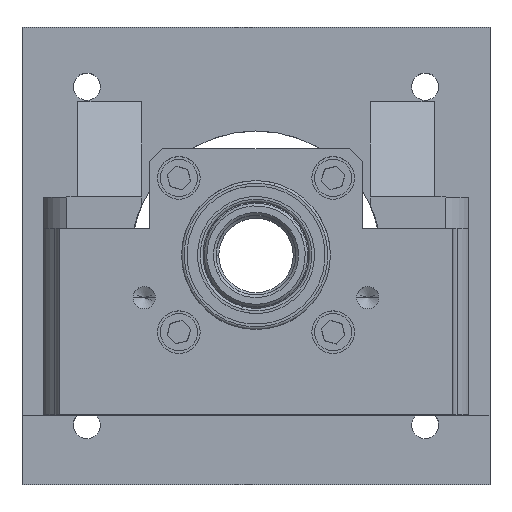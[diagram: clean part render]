
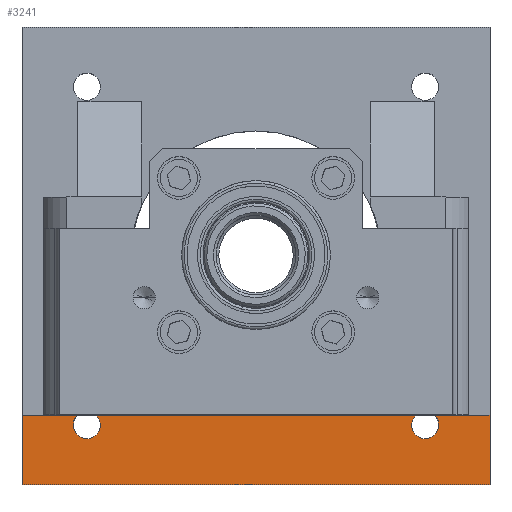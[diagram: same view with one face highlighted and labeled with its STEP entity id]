
A CAD part, top view. The second image highlights one B-rep face of the part: STEP entity #3241.
In plain terms, the highlighted planar face has unit normal (0, 0, 1).
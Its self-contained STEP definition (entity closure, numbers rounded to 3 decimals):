
#8 = VERTEX_POINT ( 'NONE', #5654 ) ;
#163 = CARTESIAN_POINT ( 'NONE',  ( 44., -30., -93. ) ) ;
#173 = LINE ( 'NONE', #13526, #3583 ) ;
#333 = VECTOR ( 'NONE', #13735, 1000. ) ;
#667 = CARTESIAN_POINT ( 'NONE',  ( -31.82, -31.82, -93. ) ) ;
#698 = DIRECTION ( 'NONE',  ( -1., 0., 0. ) ) ;
#872 = CARTESIAN_POINT ( 'NONE',  ( -29.27, -31.82, -93. ) ) ;
#908 = DIRECTION ( 'NONE',  ( 0., 0., 1. ) ) ;
#921 = DIRECTION ( 'NONE',  ( 0., -1., 0. ) ) ;
#937 = CIRCLE ( 'NONE', #13754, 2.55 ) ;
#1254 = ORIENTED_EDGE ( 'NONE', *, *, #3999, .T. ) ;
#1333 = DIRECTION ( 'NONE',  ( -1., 0., 0. ) ) ;
#1386 = CARTESIAN_POINT ( 'NONE',  ( 44., -43., -93. ) ) ;
#1397 = AXIS2_PLACEMENT_3D ( 'NONE', #667, #8696, #1832 ) ;
#1619 = VECTOR ( 'NONE', #12765, 1000. ) ;
#1832 = DIRECTION ( 'NONE',  ( -1., 0., 0. ) ) ;
#1854 = CARTESIAN_POINT ( 'NONE',  ( -30.034, -30., -93. ) ) ;
#1862 = EDGE_CURVE ( 'NONE', #8207, #4522, #14547, .T. ) ;
#1899 = DIRECTION ( 'NONE',  ( 0., 0., 1. ) ) ;
#3241 = ADVANCED_FACE ( 'NONE', ( #7307 ), #5928, .F. ) ;
#3261 = LINE ( 'NONE', #163, #6676 ) ;
#3295 = VERTEX_POINT ( 'NONE', #7192 ) ;
#3517 = VECTOR ( 'NONE', #13366, 1000. ) ;
#3583 = VECTOR ( 'NONE', #921, 1000. ) ;
#3665 = CARTESIAN_POINT ( 'NONE',  ( 31.82, -31.82, -93. ) ) ;
#3817 = CARTESIAN_POINT ( 'NONE',  ( -44., -30., -93. ) ) ;
#3999 = EDGE_CURVE ( 'NONE', #13830, #6036, #9998, .T. ) ;
#4522 = VERTEX_POINT ( 'NONE', #1854 ) ;
#4639 = CIRCLE ( 'NONE', #5540, 2.55 ) ;
#4665 = ORIENTED_EDGE ( 'NONE', *, *, #9654, .F. ) ;
#4672 = VECTOR ( 'NONE', #9417, 1000. ) ;
#4683 = CIRCLE ( 'NONE', #13283, 2.55 ) ;
#4814 = DIRECTION ( 'NONE',  ( -1., 0., 0. ) ) ;
#4817 = DIRECTION ( 'NONE',  ( 0., 0., -1. ) ) ;
#4842 = ORIENTED_EDGE ( 'NONE', *, *, #10852, .F. ) ;
#4985 = CARTESIAN_POINT ( 'NONE',  ( 30.034, -30., -93. ) ) ;
#5242 = EDGE_LOOP ( 'NONE', ( #12451, #6048, #4665, #7244, #1254, #12624, #14892, #4842, #7434, #13948, #13485, #7100 ) ) ;
#5540 = AXIS2_PLACEMENT_3D ( 'NONE', #6313, #14373, #7471 ) ;
#5654 = CARTESIAN_POINT ( 'NONE',  ( -44., -43., -93. ) ) ;
#5688 = EDGE_CURVE ( 'NONE', #6210, #7361, #6704, .T. ) ;
#5825 = AXIS2_PLACEMENT_3D ( 'NONE', #7780, #908, #8928 ) ;
#5928 = PLANE ( 'NONE',  #10440 ) ;
#6017 = CARTESIAN_POINT ( 'NONE',  ( 34.37, -31.82, -93. ) ) ;
#6036 = VERTEX_POINT ( 'NONE', #7227 ) ;
#6048 = ORIENTED_EDGE ( 'NONE', *, *, #10163, .T. ) ;
#6210 = VERTEX_POINT ( 'NONE', #13601 ) ;
#6313 = CARTESIAN_POINT ( 'NONE',  ( 31.82, -31.82, -93. ) ) ;
#6404 = CARTESIAN_POINT ( 'NONE',  ( 44., -43., -93. ) ) ;
#6539 = CARTESIAN_POINT ( 'NONE',  ( 44., -30., -93. ) ) ;
#6676 = VECTOR ( 'NONE', #1333, 1000. ) ;
#6704 = CIRCLE ( 'NONE', #5825, 2.55 ) ;
#6870 = CARTESIAN_POINT ( 'NONE',  ( 44., -30., -93. ) ) ;
#7100 = ORIENTED_EDGE ( 'NONE', *, *, #9396, .F. ) ;
#7192 = CARTESIAN_POINT ( 'NONE',  ( 29.27, -31.82, -93. ) ) ;
#7227 = CARTESIAN_POINT ( 'NONE',  ( 33.606, -30., -93. ) ) ;
#7244 = ORIENTED_EDGE ( 'NONE', *, *, #10327, .F. ) ;
#7307 = FACE_OUTER_BOUND ( 'NONE', #5242, .T. ) ;
#7361 = VERTEX_POINT ( 'NONE', #872 ) ;
#7373 = LINE ( 'NONE', #1386, #4672 ) ;
#7434 = ORIENTED_EDGE ( 'NONE', *, *, #1862, .T. ) ;
#7471 = DIRECTION ( 'NONE',  ( -1., 0., 0. ) ) ;
#7577 = DIRECTION ( 'NONE',  ( 0., 0., 1. ) ) ;
#7636 = CARTESIAN_POINT ( 'NONE',  ( 44., -30., -93. ) ) ;
#7780 = CARTESIAN_POINT ( 'NONE',  ( -31.82, -31.82, -93. ) ) ;
#8053 = VERTEX_POINT ( 'NONE', #8128 ) ;
#8128 = CARTESIAN_POINT ( 'NONE',  ( -33.606, -30., -93. ) ) ;
#8207 = VERTEX_POINT ( 'NONE', #4985 ) ;
#8266 = AXIS2_PLACEMENT_3D ( 'NONE', #8773, #1899, #9948 ) ;
#8696 = DIRECTION ( 'NONE',  ( 0., 0., 1. ) ) ;
#8773 = CARTESIAN_POINT ( 'NONE',  ( -31.82, -31.82, -93. ) ) ;
#8928 = DIRECTION ( 'NONE',  ( -1., 0., 0. ) ) ;
#9396 = EDGE_CURVE ( 'NONE', #8053, #6210, #9550, .T. ) ;
#9417 = DIRECTION ( 'NONE',  ( -1., 0., 0. ) ) ;
#9550 = CIRCLE ( 'NONE', #1397, 2.55 ) ;
#9654 = EDGE_CURVE ( 'NONE', #10918, #8, #7373, .T. ) ;
#9948 = DIRECTION ( 'NONE',  ( -1., 0., 0. ) ) ;
#9998 = LINE ( 'NONE', #7636, #3517 ) ;
#10163 = EDGE_CURVE ( 'NONE', #10726, #8, #10782, .T. ) ;
#10327 = EDGE_CURVE ( 'NONE', #13830, #10918, #173, .T. ) ;
#10440 = AXIS2_PLACEMENT_3D ( 'NONE', #11716, #4817, #12870 ) ;
#10726 = VERTEX_POINT ( 'NONE', #3817 ) ;
#10782 = LINE ( 'NONE', #11592, #1619 ) ;
#10852 = EDGE_CURVE ( 'NONE', #8207, #3295, #4639, .T. ) ;
#10918 = VERTEX_POINT ( 'NONE', #6404 ) ;
#11592 = CARTESIAN_POINT ( 'NONE',  ( -44., -43., -93. ) ) ;
#11713 = DIRECTION ( 'NONE',  ( 0., 0., 1. ) ) ;
#11716 = CARTESIAN_POINT ( 'NONE',  ( 44., -43., -93. ) ) ;
#11739 = VERTEX_POINT ( 'NONE', #6017 ) ;
#12121 = EDGE_CURVE ( 'NONE', #7361, #4522, #13419, .T. ) ;
#12451 = ORIENTED_EDGE ( 'NONE', *, *, #14117, .T. ) ;
#12624 = ORIENTED_EDGE ( 'NONE', *, *, #14604, .F. ) ;
#12765 = DIRECTION ( 'NONE',  ( 0., -1., 0. ) ) ;
#12870 = DIRECTION ( 'NONE',  ( -1., 0., 0. ) ) ;
#13283 = AXIS2_PLACEMENT_3D ( 'NONE', #3665, #11713, #4814 ) ;
#13366 = DIRECTION ( 'NONE',  ( -1., 0., 0. ) ) ;
#13419 = CIRCLE ( 'NONE', #8266, 2.55 ) ;
#13485 = ORIENTED_EDGE ( 'NONE', *, *, #5688, .F. ) ;
#13526 = CARTESIAN_POINT ( 'NONE',  ( 44., -43., -93. ) ) ;
#13601 = CARTESIAN_POINT ( 'NONE',  ( -34.37, -31.82, -93. ) ) ;
#13735 = DIRECTION ( 'NONE',  ( -1., 0., 0. ) ) ;
#13754 = AXIS2_PLACEMENT_3D ( 'NONE', #14467, #7577, #698 ) ;
#13830 = VERTEX_POINT ( 'NONE', #6539 ) ;
#13948 = ORIENTED_EDGE ( 'NONE', *, *, #12121, .F. ) ;
#14117 = EDGE_CURVE ( 'NONE', #8053, #10726, #3261, .T. ) ;
#14373 = DIRECTION ( 'NONE',  ( 0., 0., 1. ) ) ;
#14467 = CARTESIAN_POINT ( 'NONE',  ( 31.82, -31.82, -93. ) ) ;
#14547 = LINE ( 'NONE', #6870, #333 ) ;
#14604 = EDGE_CURVE ( 'NONE', #11739, #6036, #4683, .T. ) ;
#14889 = EDGE_CURVE ( 'NONE', #3295, #11739, #937, .T. ) ;
#14892 = ORIENTED_EDGE ( 'NONE', *, *, #14889, .F. ) ;
